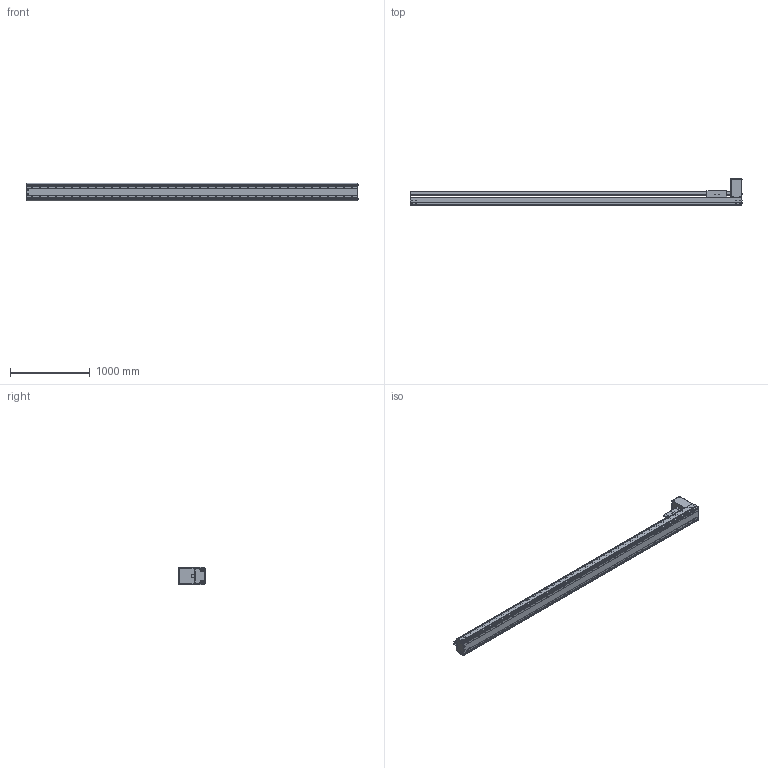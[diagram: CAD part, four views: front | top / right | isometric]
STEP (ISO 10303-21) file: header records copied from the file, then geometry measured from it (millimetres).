
FILE_DESCRIPTION((''),'2;1');
FILE_NAME('BE60J-BT-M19N-W65_IGS_PRT','2017-06-18T',(' '),(''),'PRO/ENGINEER BY PARAMETRIC TECHNOLOGY CORPORATION, 2015030','PRO/ENGINEER BY PARAMETRIC TECHNOLOGY CORPORATION, 2015030','');
FILE_SCHEMA(('CONFIG_CONTROL_DESIGN'));
Products named in the file (1): BE60J-BT-M19N-W65_IGS_PRT
Bounding box: 4154.4 x 327.5 x 214 mm (x, y, z)
Volume: 32455491.1 mm3; surface area: 9596853.5 mm2
Topology: 6 solids, 322 shells, 2892 faces, 8537 edges, 5721 vertices
Faces by surface type: cylinder 1608, plane 960, cone 228, sphere 48, torus 48
Entity records: 100357 total; most frequent: CARTESIAN_POINT 23949, DIRECTION 15677, ORIENTED_EDGE 15308, EDGE_CURVE 8288, AXIS2_PLACEMENT_3D 6021, VERTEX_POINT 5702, EDGE_LOOP 3662, VECTOR 3635
